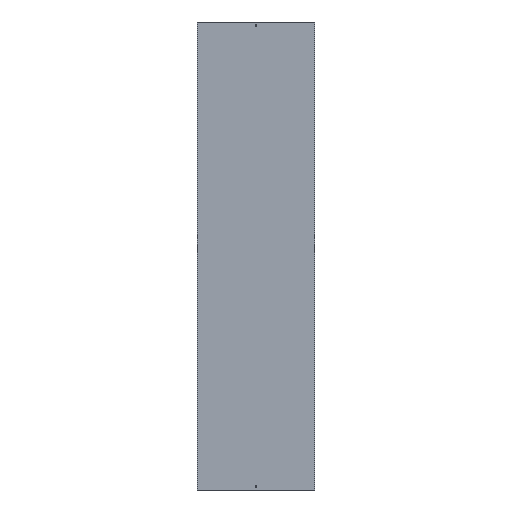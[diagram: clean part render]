
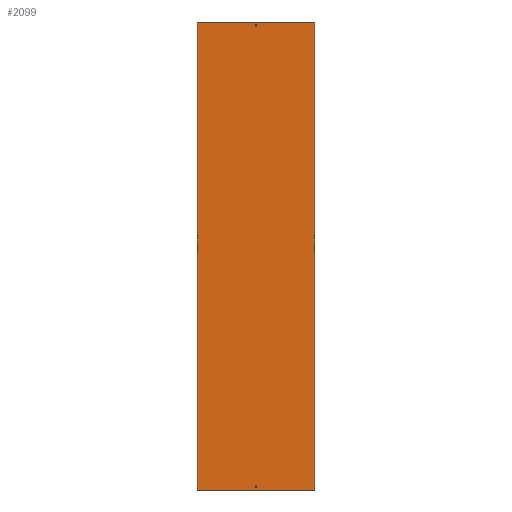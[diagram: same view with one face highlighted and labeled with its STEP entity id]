
A CAD part, front view. The second image highlights one B-rep face of the part: STEP entity #2099.
In plain terms, the highlighted planar face has unit normal (0, -1, 0).
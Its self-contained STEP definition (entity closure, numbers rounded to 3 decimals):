
#18 = ORIENTED_EDGE ( 'NONE', *, *, #170, .F. ) ;
#34 = DIRECTION ( 'NONE',  ( 0., 0., -1. ) ) ;
#64 = VECTOR ( 'NONE', #1172, 1000. ) ;
#81 = VERTEX_POINT ( 'NONE', #624 ) ;
#93 = ORIENTED_EDGE ( 'NONE', *, *, #273, .T. ) ;
#98 = LINE ( 'NONE', #323, #424 ) ;
#145 = VERTEX_POINT ( 'NONE', #2568 ) ;
#170 = EDGE_CURVE ( 'NONE', #218, #2010, #400, .T. ) ;
#188 = VECTOR ( 'NONE', #34, 1000. ) ;
#190 = VECTOR ( 'NONE', #2280, 1000. ) ;
#191 = DIRECTION ( 'NONE',  ( 1., 0., 0. ) ) ;
#218 = VERTEX_POINT ( 'NONE', #492 ) ;
#234 = CARTESIAN_POINT ( 'NONE',  ( -3.25, 0., -988. ) ) ;
#256 = FACE_BOUND ( 'NONE', #2373, .T. ) ;
#273 = EDGE_CURVE ( 'NONE', #407, #1712, #2414, .T. ) ;
#289 = VECTOR ( 'NONE', #669, 1000. ) ;
#300 = CARTESIAN_POINT ( 'NONE',  ( 3.25, 0., 988. ) ) ;
#301 = CARTESIAN_POINT ( 'NONE',  ( -3.25, 0., -988. ) ) ;
#323 = CARTESIAN_POINT ( 'NONE',  ( 3.25, 0., -988. ) ) ;
#381 = ORIENTED_EDGE ( 'NONE', *, *, #569, .F. ) ;
#398 = LINE ( 'NONE', #1260, #289 ) ;
#400 = LINE ( 'NONE', #1261, #812 ) ;
#407 = VERTEX_POINT ( 'NONE', #2725 ) ;
#409 = CARTESIAN_POINT ( 'NONE',  ( -252., 0., -1000. ) ) ;
#424 = VECTOR ( 'NONE', #983, 1000. ) ;
#492 = CARTESIAN_POINT ( 'NONE',  ( -3.25, 0., 979. ) ) ;
#525 = VERTEX_POINT ( 'NONE', #1100 ) ;
#526 = LINE ( 'NONE', #300, #774 ) ;
#569 = EDGE_CURVE ( 'NONE', #2023, #81, #878, .T. ) ;
#592 = CARTESIAN_POINT ( 'NONE',  ( 3.25, 0., 979. ) ) ;
#604 = ORIENTED_EDGE ( 'NONE', *, *, #2242, .F. ) ;
#624 = CARTESIAN_POINT ( 'NONE',  ( 252., 0., -1000. ) ) ;
#628 = ORIENTED_EDGE ( 'NONE', *, *, #704, .T. ) ;
#633 = LINE ( 'NONE', #409, #2034 ) ;
#669 = DIRECTION ( 'NONE',  ( 1., 0., 0. ) ) ;
#676 = VERTEX_POINT ( 'NONE', #2049 ) ;
#698 = ORIENTED_EDGE ( 'NONE', *, *, #2064, .T. ) ;
#704 = EDGE_CURVE ( 'NONE', #676, #1131, #1796, .T. ) ;
#706 = FACE_BOUND ( 'NONE', #1032, .T. ) ;
#755 = ORIENTED_EDGE ( 'NONE', *, *, #2258, .T. ) ;
#774 = VECTOR ( 'NONE', #2448, 1000. ) ;
#812 = VECTOR ( 'NONE', #191, 1000. ) ;
#813 = EDGE_CURVE ( 'NONE', #2496, #2305, #1644, .T. ) ;
#878 = LINE ( 'NONE', #1982, #1179 ) ;
#980 = EDGE_LOOP ( 'NONE', ( #698, #381, #1551, #93 ) ) ;
#983 = DIRECTION ( 'NONE',  ( 0., 0., -1. ) ) ;
#988 = DIRECTION ( 'NONE',  ( -1., 0., 0. ) ) ;
#1003 = CARTESIAN_POINT ( 'NONE',  ( -3.25, 0., 988. ) ) ;
#1032 = EDGE_LOOP ( 'NONE', ( #1720, #628, #755, #1827 ) ) ;
#1042 = DIRECTION ( 'NONE',  ( -1., 0., 0. ) ) ;
#1057 = EDGE_CURVE ( 'NONE', #2010, #145, #526, .T. ) ;
#1100 = CARTESIAN_POINT ( 'NONE',  ( -3.25, 0., 988. ) ) ;
#1131 = VERTEX_POINT ( 'NONE', #2032 ) ;
#1172 = DIRECTION ( 'NONE',  ( 0., 0., -1. ) ) ;
#1179 = VECTOR ( 'NONE', #1729, 1000. ) ;
#1260 = CARTESIAN_POINT ( 'NONE',  ( -252., 0., 1000. ) ) ;
#1261 = CARTESIAN_POINT ( 'NONE',  ( -3.25, 0., 979. ) ) ;
#1279 = AXIS2_PLACEMENT_3D ( 'NONE', #1770, #2546, #1042 ) ;
#1290 = DIRECTION ( 'NONE',  ( 1., 0., 0. ) ) ;
#1359 = EDGE_CURVE ( 'NONE', #2305, #676, #2761, .T. ) ;
#1534 = VECTOR ( 'NONE', #1821, 1000. ) ;
#1551 = ORIENTED_EDGE ( 'NONE', *, *, #1780, .F. ) ;
#1578 = CARTESIAN_POINT ( 'NONE',  ( -3.25, 0., -979. ) ) ;
#1644 = LINE ( 'NONE', #1665, #190 ) ;
#1665 = CARTESIAN_POINT ( 'NONE',  ( -3.25, 0., -988. ) ) ;
#1712 = VERTEX_POINT ( 'NONE', #2747 ) ;
#1715 = VECTOR ( 'NONE', #2346, 1000. ) ;
#1720 = ORIENTED_EDGE ( 'NONE', *, *, #1359, .T. ) ;
#1729 = DIRECTION ( 'NONE',  ( 0., 0., -1. ) ) ;
#1770 = CARTESIAN_POINT ( 'NONE',  ( -252., 0., 1000. ) ) ;
#1780 = EDGE_CURVE ( 'NONE', #407, #2023, #398, .T. ) ;
#1796 = LINE ( 'NONE', #1578, #1534 ) ;
#1821 = DIRECTION ( 'NONE',  ( 1., 0., 0. ) ) ;
#1827 = ORIENTED_EDGE ( 'NONE', *, *, #813, .T. ) ;
#1854 = CARTESIAN_POINT ( 'NONE',  ( 252., 0., 1000. ) ) ;
#1895 = VECTOR ( 'NONE', #988, 1000. ) ;
#1950 = EDGE_CURVE ( 'NONE', #145, #525, #2041, .T. ) ;
#1958 = CARTESIAN_POINT ( 'NONE',  ( -252., 0., 1000. ) ) ;
#1982 = CARTESIAN_POINT ( 'NONE',  ( 252., 0., 1000. ) ) ;
#2010 = VERTEX_POINT ( 'NONE', #592 ) ;
#2023 = VERTEX_POINT ( 'NONE', #1854 ) ;
#2032 = CARTESIAN_POINT ( 'NONE',  ( 3.25, 0., -979. ) ) ;
#2034 = VECTOR ( 'NONE', #1290, 1000. ) ;
#2041 = LINE ( 'NONE', #1003, #1895 ) ;
#2049 = CARTESIAN_POINT ( 'NONE',  ( -3.25, 0., -979. ) ) ;
#2064 = EDGE_CURVE ( 'NONE', #1712, #81, #633, .T. ) ;
#2088 = ORIENTED_EDGE ( 'NONE', *, *, #1057, .F. ) ;
#2092 = PLANE ( 'NONE',  #1279 ) ;
#2099 = ADVANCED_FACE ( 'NONE', ( #2533, #256, #706 ), #2092, .F. ) ;
#2200 = CARTESIAN_POINT ( 'NONE',  ( -3.25, 0., 988. ) ) ;
#2242 = EDGE_CURVE ( 'NONE', #525, #218, #2670, .T. ) ;
#2258 = EDGE_CURVE ( 'NONE', #1131, #2496, #98, .T. ) ;
#2280 = DIRECTION ( 'NONE',  ( -1., 0., 0. ) ) ;
#2305 = VERTEX_POINT ( 'NONE', #301 ) ;
#2346 = DIRECTION ( 'NONE',  ( 0., 0., 1. ) ) ;
#2365 = ORIENTED_EDGE ( 'NONE', *, *, #1950, .F. ) ;
#2371 = CARTESIAN_POINT ( 'NONE',  ( 3.25, 0., -988. ) ) ;
#2373 = EDGE_LOOP ( 'NONE', ( #18, #604, #2365, #2088 ) ) ;
#2414 = LINE ( 'NONE', #1958, #188 ) ;
#2448 = DIRECTION ( 'NONE',  ( 0., 0., 1. ) ) ;
#2496 = VERTEX_POINT ( 'NONE', #2371 ) ;
#2533 = FACE_OUTER_BOUND ( 'NONE', #980, .T. ) ;
#2546 = DIRECTION ( 'NONE',  ( 0., 1., 0. ) ) ;
#2568 = CARTESIAN_POINT ( 'NONE',  ( 3.25, 0., 988. ) ) ;
#2670 = LINE ( 'NONE', #2200, #64 ) ;
#2725 = CARTESIAN_POINT ( 'NONE',  ( -252., 0., 1000. ) ) ;
#2747 = CARTESIAN_POINT ( 'NONE',  ( -252., 0., -1000. ) ) ;
#2761 = LINE ( 'NONE', #234, #1715 ) ;
